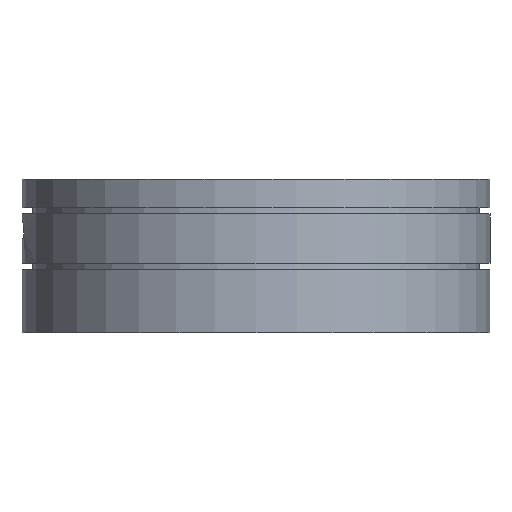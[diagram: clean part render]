
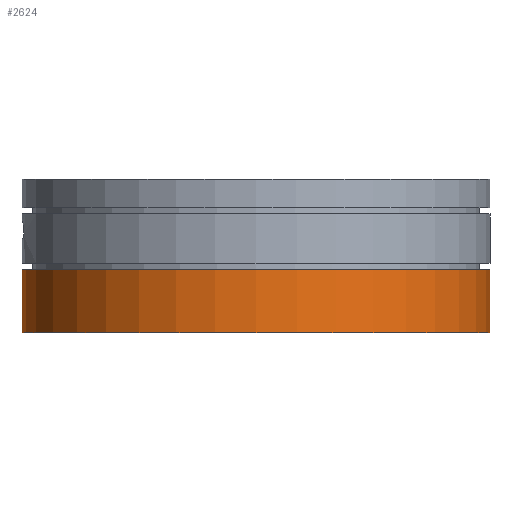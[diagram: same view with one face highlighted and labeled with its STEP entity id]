
A CAD part, front view. The second image highlights one B-rep face of the part: STEP entity #2624.
In plain terms, the highlighted cylindrical face has radius 33 mm (diameter 66 mm), a full revolution.
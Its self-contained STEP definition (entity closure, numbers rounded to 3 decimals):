
#92=CYLINDRICAL_SURFACE('',#2924,33.);
#200=CIRCLE('',#2923,33.);
#201=CIRCLE('',#2925,33.);
#876=ORIENTED_EDGE('',*,*,#1271,.F.);
#877=ORIENTED_EDGE('',*,*,#1270,.T.);
#1270=EDGE_CURVE('',#1548,#1548,#200,.T.);
#1271=EDGE_CURVE('',#1549,#1549,#201,.T.);
#1548=VERTEX_POINT('',#4495);
#1549=VERTEX_POINT('',#4498);
#2209=EDGE_LOOP('',(#876));
#2210=EDGE_LOOP('',(#877));
#2384=FACE_BOUND('',#2209,.T.);
#2385=FACE_BOUND('',#2210,.T.);
#2624=ADVANCED_FACE('',(#2384,#2385),#92,.T.);
#2923=AXIS2_PLACEMENT_3D('',#4494,#3661,#3662);
#2924=AXIS2_PLACEMENT_3D('',#4496,#3663,#3664);
#2925=AXIS2_PLACEMENT_3D('',#4497,#3665,#3666);
#3661=DIRECTION('',(0.,0.,-1.));
#3662=DIRECTION('',(1.,0.,0.));
#3663=DIRECTION('',(0.,0.,-1.));
#3664=DIRECTION('',(-1.,0.,0.));
#3665=DIRECTION('',(0.,0.,-1.));
#3666=DIRECTION('',(1.,0.,0.));
#4494=CARTESIAN_POINT('',(0.,0.,6.166));
#4495=CARTESIAN_POINT('',(33.,0.,6.166));
#4496=CARTESIAN_POINT('',(0.,0.,7.266));
#4497=CARTESIAN_POINT('',(0.,0.,-2.734));
#4498=CARTESIAN_POINT('',(33.,0.,-2.734));
